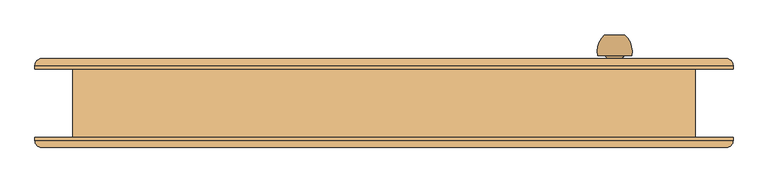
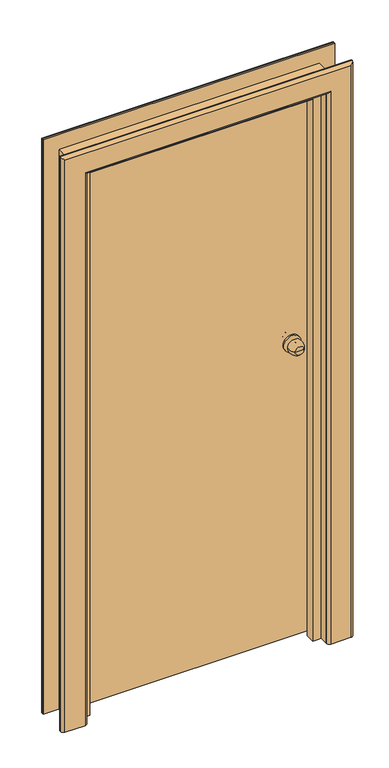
"""IFC4 building model written with IfcOpenShell, lengths in millimetres: door geometry, Внутренняя дверь 1-Навесная - 6629-88 : ДГ 21-9Л  ГОСТ 6629-88."""

import ifcopenshell
import ifcopenshell.guid

model = None  # the IFC model being written
_history = None  # IfcOwnerHistory: only IFC2X3 demands one
_inside = {}  # id of a spatial element -> (the spatial element, [elements in it])
_under = {}  # id of a project, library or spatial element -> (it, [spatial elements below it])
_declared = {}  # id of a project -> (the project, [libraries it declares])
_typed = {}  # id of a type object -> (the type object, [elements of that type])
_made_of = {}  # id of a material, layer set ... -> (it, [elements and type objects made of it])


def new_model(schema):
    """Start an empty IFC model of exactly this schema.

    Asked for "IFC4X3", IfcOpenShell would pick the latest addendum, in which some entities
    have other attributes; the version numbers below select the first issue.
    IFC2X3 requires an IfcOwnerHistory on every rooted entity: one is made here for all.
    """
    global model, _history
    if schema == "IFC4X3":
        model = ifcopenshell.file(schema_version=(4, 3, 0, 0))
    else:
        model = ifcopenshell.file(schema=schema)
    _inside.clear()
    _under.clear()
    _declared.clear()
    _typed.clear()
    _made_of.clear()
    _history = None
    if model.schema == "IFC2X3":
        org = make("IfcOrganization", Name="unknown")
        user = make(
            "IfcPersonAndOrganization",
            ThePerson=make("IfcPerson", FamilyName="unknown"),
            TheOrganization=org,
        )
        app = make(
            "IfcApplication",
            ApplicationDeveloper=org,
            Version="unknown",
            ApplicationFullName="unknown",
            ApplicationIdentifier="unknown",
        )
        _history = make(
            "IfcOwnerHistory",
            OwningUser=user,
            OwningApplication=app,
            ChangeAction="ADDED",
            CreationDate=0,
        )
    return model


def make(cls, **values):
    """One entity of the class cls with the attributes given. An attribute that is None is left unset."""
    return model.create_entity(
        cls, **{name: value for name, value in values.items() if value is not None}
    )


def rooted(cls, **values):
    """An entity with a GlobalId (a new one), such as an element, a storey or a relation."""
    return make(cls, GlobalId=ifcopenshell.guid.new(), OwnerHistory=_history, **values)


def si_unit(unit_type, name, prefix=None):
    """IfcSIUnit, for example si_unit("LENGTHUNIT", "METRE", prefix="MILLI")."""
    return make("IfcSIUnit", UnitType=unit_type, Prefix=prefix, Name=name)


def assignment(units):
    """IfcUnitAssignment: the units of a project."""
    return None if units is None else make("IfcUnitAssignment", Units=units)


def point(xyz):
    """IfcCartesianPoint."""
    return None if xyz is None else make("IfcCartesianPoint", Coordinates=xyz)


def direction(xyz):
    """IfcDirection."""
    return None if xyz is None else make("IfcDirection", DirectionRatios=xyz)


def frame(location, z_axis=None, x_axis=None):
    """IfcAxis2Placement3D, a coordinate frame: its origin and axes. An axis left out is left unset."""
    return make(
        "IfcAxis2Placement3D",
        Location=point(location),
        Axis=direction(z_axis),
        RefDirection=direction(x_axis),
    )


def origin():
    """The frame at (0, 0, 0) with its axes left unset."""
    return frame((0.0, 0.0, 0.0))


def place(relative_to, where):
    """IfcLocalPlacement: puts the frame where relative to a parent placement (None: the world)."""
    return make(
        "IfcLocalPlacement", PlacementRelTo=relative_to, RelativePlacement=where
    )


def context(
    kind, dimensions, precision=None, world=None, true_north=None, identifier=None
):
    """IfcGeometricRepresentationContext, for example the 3D "Model" context."""
    return make(
        "IfcGeometricRepresentationContext",
        ContextIdentifier=identifier,
        ContextType=kind,
        CoordinateSpaceDimension=dimensions,
        Precision=precision,
        WorldCoordinateSystem=world,
        TrueNorth=true_north,
    )


def project(units=None, contexts=None):
    """IfcProject with its units and contexts."""
    return rooted(
        "IfcProject",
        Name="project",
        RepresentationContexts=contexts,
        UnitsInContext=assignment(units),
    )


def spatial(cls, under=None, at=None, **own):
    """A site, building, storey or space (cls), placed at a placement, below another one or the project."""
    s = rooted(cls, ObjectPlacement=at, **own)
    if under is not None:
        _under.setdefault(under.id(), (under, []))[1].append(s)
    return s


def polyline(points):
    """IfcPolyline through the points."""
    return make("IfcPolyline", Points=[point(p) for p in points])


def circle_curve(where, radius):
    """IfcCircle in the frame where."""
    return make("IfcCircle", Position=where, Radius=radius)


def ellipse_curve(where, semi_axis1, semi_axis2):
    """IfcEllipse in the frame where."""
    return make(
        "IfcEllipse", Position=where, SemiAxis1=semi_axis1, SemiAxis2=semi_axis2
    )


def trimmed(basis, trim1, trim2, sense, master):
    """IfcTrimmedCurve: the piece of a basis curve between two trims."""
    return make(
        "IfcTrimmedCurve",
        BasisCurve=basis,
        Trim1=trim1,
        Trim2=trim2,
        SenseAgreement=sense,
        MasterRepresentation=master,
    )


def outline(outer, holes=None, kind="AREA"):
    """IfcArbitraryClosedProfileDef: a profile drawn as a closed curve; with holes, ...WithVoids."""
    if holes is None:
        return make("IfcArbitraryClosedProfileDef", ProfileType=kind, OuterCurve=outer)
    return make(
        "IfcArbitraryProfileDefWithVoids",
        ProfileType=kind,
        OuterCurve=outer,
        InnerCurves=holes,
    )


def extrude(swept, where, along, depth):
    """IfcExtrudedAreaSolid: the profile swept, set in the frame where, extruded along a direction by depth."""
    return make(
        "IfcExtrudedAreaSolid",
        SweptArea=swept,
        Position=where,
        ExtrudedDirection=direction(along),
        Depth=depth,
    )


def faces_of(points, faces, orient=None, outer=None):
    """IfcFace entities. A face is a list of loops; a loop is a list of indices into points, from 0.

    orient and outer hold one flag for each loop. By default every Orientation is true, the
    first loop of a face is its IfcFaceOuterBound and the others are IfcFaceBound.
    """
    made = []
    for i, loops in enumerate(faces):
        bounds = []
        for j, loop in enumerate(loops):
            is_outer = j == 0 if outer is None else outer[i][j]
            bounds.append(
                make(
                    "IfcFaceOuterBound" if is_outer else "IfcFaceBound",
                    Bound=make("IfcPolyLoop", Polygon=[points[k] for k in loop]),
                    Orientation=True if orient is None else orient[i][j],
                )
            )
        made.append(make("IfcFace", Bounds=bounds))
    return made


def faceted_brep(points, faces, orient=None, outer=None, voids=None):
    """IfcFacetedBrep: a solid bounded by flat faces; with voids (closed shells), ...WithVoids."""
    shared = [point(p) for p in points]
    hull = make("IfcClosedShell", CfsFaces=faces_of(shared, faces, orient, outer))
    if voids is None:
        return make("IfcFacetedBrep", Outer=hull)
    return make(
        "IfcFacetedBrepWithVoids",
        Outer=hull,
        Voids=[
            make(cls, CfsFaces=faces_of(shared, fs, o, b)) for cls, fs, o, b in voids
        ],
    )


def shape(context_of_items, identifier, shape_type, items):
    """IfcShapeRepresentation: the items that make up one representation, for example the "Body"."""
    return make(
        "IfcShapeRepresentation",
        ContextOfItems=context_of_items,
        RepresentationIdentifier=identifier,
        RepresentationType=shape_type,
        Items=items,
    )


def source(mapping_origin, context_of_items, identifier, shape_type, items):
    """IfcRepresentationMap: a shape defined once, which mapped items show again and again."""
    return make(
        "IfcRepresentationMap",
        MappingOrigin=mapping_origin,
        MappedRepresentation=shape(context_of_items, identifier, shape_type, items),
    )


def transform(
    local_origin,
    x_axis=None,
    y_axis=None,
    z_axis=None,
    scale=None,
    scale2=None,
    scale3=None,
    uniform=True,
):
    """IfcCartesianTransformationOperator3D, or its non-uniform kind. x_axis, y_axis, z_axis: its Axis1, 2, 3."""
    if uniform:
        return make(
            "IfcCartesianTransformationOperator3D",
            Axis1=direction(x_axis),
            Axis2=direction(y_axis),
            LocalOrigin=point(local_origin),
            Scale=scale,
            Axis3=direction(z_axis),
        )
    return make(
        "IfcCartesianTransformationOperator3DnonUniform",
        Axis1=direction(x_axis),
        Axis2=direction(y_axis),
        LocalOrigin=point(local_origin),
        Scale=scale,
        Axis3=direction(z_axis),
        Scale2=scale2,
        Scale3=scale3,
    )


def mapped(mapping_source, mapping_target):
    """IfcMappedItem: shows the shape of a source again, moved by a transform."""
    return make(
        "IfcMappedItem", MappingSource=mapping_source, MappingTarget=mapping_target
    )


def made_of(thing, what):
    """Note that an element or type object is made of a material, layer set ...; save() writes the relation."""
    if what is not None:
        _made_of.setdefault(what.id(), (what, []))[1].append(thing)
    return thing


def element(
    cls,
    number,
    at=None,
    inside=None,
    cuts=None,
    type_object=None,
    material=None,
    context=None,
    identifier="Body",
    shape_type=None,
    held_by="IfcProductDefinitionShape",
    body=None,
    shapes=None,
    **own,
):
    """One element of the class cls, such as IfcWall. Its Tag is "e" and its number.

    at: its placement. inside: the storey or other place that contains it. cuts: it is an
    opening in that element (IfcRelVoidsElement). A single representation is given by context,
    identifier, shape_type and body (its items); several are given by shapes. held_by: the class
    of the entity that holds the representations. save() writes the other relations.
    """
    e = rooted(cls, Tag="e%d" % number, ObjectPlacement=at, **own)
    if body is not None:
        shapes = [shape(context, identifier, shape_type, body)]
    if shapes is not None:
        e.Representation = make(held_by, Representations=shapes)
    if inside is not None:
        _inside.setdefault(inside.id(), (inside, []))[1].append(e)
    if cuts is not None:
        rooted(
            "IfcRelVoidsElement", RelatingBuildingElement=cuts, RelatedOpeningElement=e
        )
    if type_object is not None:
        _typed.setdefault(type_object.id(), (type_object, []))[1].append(e)
    return made_of(e, material)


def aggregate(whole, parts):
    """IfcRelAggregates: a whole, such as a stair, and the parts it consists of."""
    return rooted("IfcRelAggregates", RelatingObject=whole, RelatedObjects=parts)


def save(model, path):
    """Write the relations noted so far, then the file.

    IfcRelAggregates (storeys below a building ...), IfcRelContainedInSpatialStructure (elements
    in a storey), IfcRelDefinesByType, IfcRelAssociatesMaterial and IfcRelDeclares: one each for
    every whole, place, type object, material and project.
    """
    for whole, parts in _under.values():
        aggregate(whole, parts)
    for where, things in _inside.values():
        rooted(
            "IfcRelContainedInSpatialStructure",
            RelatedElements=things,
            RelatingStructure=where,
        )
    for kind, things in _typed.values():
        rooted("IfcRelDefinesByType", RelatedObjects=things, RelatingType=kind)
    for what, things in _made_of.values():
        rooted("IfcRelAssociatesMaterial", RelatedObjects=things, RelatingMaterial=what)
    for by, libraries in _declared.values():
        rooted("IfcRelDeclares", RelatingContext=by, RelatedDefinitions=libraries)
    model.write(path)


def plane_surface(at):
    """IfcPlane: the flat surface through the origin of the frame at, square to its z axis."""
    return make("IfcPlane", Position=at)


def cylinder_surface(at, radius):
    """IfcCylindricalSurface: all points at the distance radius from the z axis of the frame at."""
    return make("IfcCylindricalSurface", Position=at, Radius=radius)


def revolved_surface(curve, axis_point, axis_direction):
    """IfcSurfaceOfRevolution: the curve turned about the line through axis_point along axis_direction."""
    return make(
        "IfcSurfaceOfRevolution",
        SweptCurve=make("IfcArbitraryOpenProfileDef", ProfileType="CURVE", Curve=curve),
        AxisPosition=make("IfcAxis1Placement", Location=point(axis_point), Axis=direction(axis_direction)),
    )


def advanced_brep(points, edges, surfaces, faces):
    """IfcAdvancedBrep: a solid bounded by faces that lie on surfaces and meet in shared edges.

    An edge is (start, end): straight between two places in points (the first is 0);
    or (start, end, curve); or (start, end, curve, False) where it runs against its curve.
    A face is (place in surfaces, loops), or (place, loops, False) where it looks against
    its surface's normal. A loop lists edges by number (the first is 1), with a minus sign
    where the edge is run from its end to its start. The first loop is the outer one.
    """
    corners = [point(p) for p in points]
    vertices = [make("IfcVertexPoint", VertexGeometry=c) for c in corners]
    made = []
    for start, end, *more in edges:
        made.append(
            make(
                "IfcEdgeCurve",
                EdgeStart=vertices[start],
                EdgeEnd=vertices[end],
                EdgeGeometry=more[0] if more else make("IfcPolyline", Points=[corners[start], corners[end]]),
                SameSense=more[1] if len(more) > 1 else True,
            )
        )
    hull = []
    for where, loops, *sense in faces:
        bounds = []
        for j, loop in enumerate(loops):
            ring = [make("IfcOrientedEdge", EdgeElement=made[abs(k) - 1], Orientation=k > 0) for k in loop]
            bounds.append(
                make(
                    "IfcFaceOuterBound" if j == 0 else "IfcFaceBound",
                    Bound=make("IfcEdgeLoop", EdgeList=ring),
                    Orientation=True,
                )
            )
        hull.append(make("IfcAdvancedFace", Bounds=bounds, FaceSurface=surfaces[where], SameSense=sense[0] if sense else True))
    return make("IfcAdvancedBrep", Outer=make("IfcClosedShell", CfsFaces=hull))


def door_8e506e8c(model_context):
    return source(origin(), model_context, "Body", "SolidModel", [
        advanced_brep(
        [(352.0, 100.0, 1100.0), (337.0, 100.0, 1100.0), (322.0, 100.0, 1100.0), (312.0, 70.0, 1100.0), (362.0, 70.0, 1100.0), (319.0, 70.0, 1100.0), (355.0, 70.0, 1100.0), (327.0, 62.0, 1100.0), (347.0, 62.0, 1100.0), (327.0, 56.0, 1100.0), (347.0, 56.0, 1100.0), (307.0, 56.0, 1100.0), (367.0, 56.0, 1100.0), (307.0, 50.0, 1100.0), (367.0, 50.0, 1100.0)],
        [
            (0, 1),
            (1, 2),
            (2, 0, circle_curve(frame((337.0, 100.0, 1100.0), z_axis=(0.0, 1.0, 0.0), x_axis=(-1.0, 0.0, 0.0)), 15.0)),
            (0, 2, circle_curve(frame((337.0, 100.0, 1100.0), z_axis=(0.0, 1.0, 0.0), x_axis=(-1.0, 0.0, 0.0)), 15.0)),
            (2, 3, circle_curve(frame((346.6226265, 75.1257912, 1100.0), z_axis=(0.0, 0.0, 1.0), x_axis=(1.0, 0.0, 0.0)), 35.0)),
            (3, 4, circle_curve(frame((337.0, 70.0, 1100.0), z_axis=(0.0, 1.0, 0.0), x_axis=(-1.0, 0.0, 0.0)), 25.0)),
            (4, 0, circle_curve(frame((327.3773735, 75.1257912, 1100.0), z_axis=(0.0, 0.0, 1.0), x_axis=(-1.0, 0.0, 0.0)), 35.0)),
            (4, 3, circle_curve(frame((337.0, 70.0, 1100.0), z_axis=(0.0, 1.0, 0.0), x_axis=(-1.0, 0.0, 0.0)), 25.0)),
            (3, 5),
            (5, 6, circle_curve(frame((337.0, 70.0, 1100.0), z_axis=(0.0, 1.0, 0.0), x_axis=(-1.0, 0.0, 0.0)), 18.0)),
            (6, 4),
            (6, 5, circle_curve(frame((337.0, 70.0, 1100.0), z_axis=(0.0, 1.0, 0.0), x_axis=(-1.0, 0.0, 0.0)), 18.0)),
            (5, 7, circle_curve(frame((319.0, 62.0, 1100.0), z_axis=(0.0, 0.0, -1.0), x_axis=(1.0, 0.0, 0.0)), 8.0)),
            (7, 8, circle_curve(frame((337.0, 62.0, 1100.0), z_axis=(0.0, 1.0, 0.0), x_axis=(-1.0, 0.0, 0.0)), 10.0)),
            (8, 6, circle_curve(frame((355.0, 62.0, 1100.0), z_axis=(0.0, 0.0, -1.0), x_axis=(-1.0, 0.0, 0.0)), 8.0)),
            (8, 7, circle_curve(frame((337.0, 62.0, 1100.0), z_axis=(0.0, 1.0, 0.0), x_axis=(-1.0, 0.0, 0.0)), 10.0)),
            (7, 9),
            (9, 10, circle_curve(frame((337.0, 56.0, 1100.0), z_axis=(0.0, 1.0, 0.0), x_axis=(-1.0, 0.0, 0.0)), 10.0)),
            (10, 8),
            (10, 9, circle_curve(frame((337.0, 56.0, 1100.0), z_axis=(0.0, 1.0, 0.0), x_axis=(-1.0, 0.0, 0.0)), 10.0)),
            (11, 12, circle_curve(frame((337.0, 56.0, 1100.0), z_axis=(0.0, 1.0, 0.0), x_axis=(1.0, 0.0, 0.0)), 30.0)),
            (12, 11, circle_curve(frame((337.0, 56.0, 1100.0), z_axis=(0.0, 1.0, 0.0), x_axis=(1.0, 0.0, 0.0)), 30.0)),
            (13, 14, circle_curve(frame((337.0, 50.0, 1100.0), z_axis=(0.0, -1.0, 0.0), x_axis=(1.0, 0.0, 0.0)), 30.0)),
            (14, 13, circle_curve(frame((337.0, 50.0, 1100.0), z_axis=(0.0, -1.0, 0.0), x_axis=(1.0, 0.0, 0.0)), 30.0)),
            (12, 14),
            (13, 11),
        ],
        [
            plane_surface(frame((337.0, 100.0, 1100.0), z_axis=(0.0, 1.0, 0.0), x_axis=(-1.0, 0.0, 0.0))),
            revolved_surface(trimmed(ellipse_curve(frame((346.6226265, 75.1257912, 1100.0), z_axis=(0.0, 0.0, 1.0), x_axis=(1.0, 0.0, 0.0)), 35.0, 35.0), [point((322.0, 100.0, 1100.0))], [point((312.0, 70.0, 1100.0))], True, "CARTESIAN"), (337.0, 130.0, 1100.0), (0.0, -1.0, 0.0)),
            plane_surface(frame((337.0, 70.0, 1100.0), z_axis=(0.0, -1.0, 0.0), x_axis=(-1.0, 0.0, 0.0))),
            revolved_surface(trimmed(ellipse_curve(frame((319.0, 62.0, 1100.0), z_axis=(0.0, 0.0, -1.0), x_axis=(1.0, 0.0, 0.0)), 8.0, 8.0), [point((319.0, 70.0, 1100.0))], [point((327.0, 62.0, 1100.0))], True, "CARTESIAN"), (337.0, 130.0, 1100.0), (0.0, -1.0, 0.0)),
            cylinder_surface(frame((337.0, 130.0, 1100.0), z_axis=(0.0, -1.0, 0.0), x_axis=(-1.0, 0.0, 0.0)), 10.0),
            plane_surface(frame((367.0, 56.0, 1100.0), z_axis=(0.0, 1.0, 0.0), x_axis=(0.0, 0.0, 1.0))),
            plane_surface(frame((367.0, 50.0, 1100.0), z_axis=(0.0, -1.0, 0.0), x_axis=(0.0, 0.0, -1.0))),
            cylinder_surface(frame((337.0, 50.0, 1100.0), z_axis=(0.0, 1.0, 0.0), x_axis=(1.0, 0.0, 0.0)), 30.0),
        ],
        [
            (0, [[1, 2, 3]]),
            (0, [[-1, 4, -2]]),
            (1, [[5, 6, 7, -3]]),
            (1, [[-7, 8, -5, -4]]),
            (2, [[9, 10, 11, -6]]),
            (2, [[-11, 12, -9, -8]]),
            (3, [[13, 14, 15, -10]]),
            (3, [[-15, 16, -13, -12]]),
            (4, [[17, 18, 19, -14]]),
            (4, [[-19, 20, -17, -16]]),
            (5, [[21, 22], [-20, -18]]),
            (6, [[23, 24]]),
            (7, [[25, -23, 26, -22]]),
            (7, [[-26, -24, -25, -21]]),
        ],
    ),
        advanced_brep(
        [(322.0, -37.0, 1100.0), (337.0, -37.0, 1100.0), (352.0, -37.0, 1100.0), (362.0, -7.0, 1100.0), (312.0, -7.0, 1100.0), (355.0, -7.0, 1100.0), (319.0, -7.0, 1100.0), (347.0, 1.0, 1100.0), (327.0, 1.0, 1100.0), (347.0, 7.0, 1100.0), (327.0, 7.0, 1100.0), (367.0, 7.0, 1100.0), (307.0, 7.0, 1100.0), (367.0, 13.0, 1100.0), (307.0, 13.0, 1100.0)],
        [
            (0, 1),
            (1, 2),
            (2, 0, circle_curve(frame((337.0, -37.0, 1100.0), z_axis=(0.0, -1.0, 0.0), x_axis=(1.0, 0.0, 0.0)), 15.0)),
            (0, 2, circle_curve(frame((337.0, -37.0, 1100.0), z_axis=(0.0, -1.0, 0.0), x_axis=(1.0, 0.0, 0.0)), 15.0)),
            (2, 3, circle_curve(frame((327.3773735, -12.1257912, 1100.0), z_axis=(0.0, 0.0, 1.0), x_axis=(-1.0, 0.0, 0.0)), 35.0)),
            (3, 4, circle_curve(frame((337.0, -7.0, 1100.0), z_axis=(0.0, -1.0, 0.0), x_axis=(1.0, 0.0, 0.0)), 25.0)),
            (4, 0, circle_curve(frame((346.6226265, -12.1257912, 1100.0), z_axis=(0.0, 0.0, 1.0), x_axis=(1.0, 0.0, 0.0)), 35.0)),
            (4, 3, circle_curve(frame((337.0, -7.0, 1100.0), z_axis=(0.0, -1.0, 0.0), x_axis=(1.0, 0.0, 0.0)), 25.0)),
            (3, 5),
            (5, 6, circle_curve(frame((337.0, -7.0, 1100.0), z_axis=(0.0, -1.0, 0.0), x_axis=(1.0, 0.0, 0.0)), 18.0)),
            (6, 4),
            (6, 5, circle_curve(frame((337.0, -7.0, 1100.0), z_axis=(0.0, -1.0, 0.0), x_axis=(1.0, 0.0, 0.0)), 18.0)),
            (5, 7, circle_curve(frame((355.0, 1.0, 1100.0), z_axis=(0.0, 0.0, -1.0), x_axis=(-1.0, 0.0, 0.0)), 8.0)),
            (7, 8, circle_curve(frame((337.0, 1.0, 1100.0), z_axis=(0.0, -1.0, 0.0), x_axis=(1.0, 0.0, 0.0)), 10.0)),
            (8, 6, circle_curve(frame((319.0, 1.0, 1100.0), z_axis=(0.0, 0.0, -1.0), x_axis=(1.0, 0.0, 0.0)), 8.0)),
            (8, 7, circle_curve(frame((337.0, 1.0, 1100.0), z_axis=(0.0, -1.0, 0.0), x_axis=(1.0, 0.0, 0.0)), 10.0)),
            (7, 9),
            (9, 10, circle_curve(frame((337.0, 7.0, 1100.0), z_axis=(0.0, -1.0, 0.0), x_axis=(1.0, 0.0, 0.0)), 10.0)),
            (10, 8),
            (10, 9, circle_curve(frame((337.0, 7.0, 1100.0), z_axis=(0.0, -1.0, 0.0), x_axis=(1.0, 0.0, 0.0)), 10.0)),
            (11, 12, circle_curve(frame((337.0, 7.0, 1100.0), z_axis=(0.0, -1.0, 0.0), x_axis=(-1.0, 0.0, 0.0)), 30.0)),
            (12, 11, circle_curve(frame((337.0, 7.0, 1100.0), z_axis=(0.0, -1.0, 0.0), x_axis=(-1.0, 0.0, 0.0)), 30.0)),
            (13, 14, circle_curve(frame((337.0, 13.0, 1100.0), z_axis=(0.0, 1.0, 0.0), x_axis=(-1.0, 0.0, 0.0)), 30.0)),
            (14, 13, circle_curve(frame((337.0, 13.0, 1100.0), z_axis=(0.0, 1.0, 0.0), x_axis=(-1.0, 0.0, 0.0)), 30.0)),
            (12, 14),
            (13, 11),
        ],
        [
            plane_surface(frame((337.0, -37.0, 1100.0), z_axis=(0.0, -1.0, 0.0), x_axis=(1.0, 0.0, 0.0))),
            revolved_surface(trimmed(ellipse_curve(frame((327.3773735, -12.1257912, 1100.0), z_axis=(0.0, 0.0, 1.0), x_axis=(-1.0, 0.0, 0.0)), 35.0, 35.0), [point((352.0, -37.0, 1100.0))], [point((362.0, -7.0, 1100.0))], True, "CARTESIAN"), (337.0, -67.0, 1100.0), (0.0, 1.0, 0.0)),
            plane_surface(frame((337.0, -7.0, 1100.0), z_axis=(0.0, 1.0, 0.0), x_axis=(1.0, 0.0, 0.0))),
            revolved_surface(trimmed(ellipse_curve(frame((355.0, 1.0, 1100.0), z_axis=(0.0, 0.0, -1.0), x_axis=(-1.0, 0.0, 0.0)), 8.0, 8.0), [point((355.0, -7.0, 1100.0))], [point((347.0, 1.0, 1100.0))], True, "CARTESIAN"), (337.0, -67.0, 1100.0), (0.0, 1.0, 0.0)),
            cylinder_surface(frame((337.0, -67.0, 1100.0), z_axis=(0.0, 1.0, 0.0), x_axis=(1.0, 0.0, 0.0)), 10.0),
            plane_surface(frame((307.0, 7.0, 1100.0), z_axis=(0.0, -1.0, 0.0), x_axis=(0.0, 0.0, 1.0))),
            plane_surface(frame((307.0, 13.0, 1100.0), z_axis=(0.0, 1.0, 0.0), x_axis=(0.0, 0.0, -1.0))),
            cylinder_surface(frame((337.0, 13.0, 1100.0), z_axis=(0.0, -1.0, 0.0), x_axis=(-1.0, 0.0, 0.0)), 30.0),
        ],
        [
            (0, [[1, 2, 3]]),
            (0, [[-1, 4, -2]]),
            (1, [[5, 6, 7, -3]]),
            (1, [[-7, 8, -5, -4]]),
            (2, [[9, 10, 11, -6]]),
            (2, [[-11, 12, -9, -8]]),
            (3, [[13, 14, 15, -10]]),
            (3, [[-15, 16, -13, -12]]),
            (4, [[17, 18, 19, -14]]),
            (4, [[-19, 20, -17, -16]]),
            (5, [[21, 22], [-20, -18]]),
            (6, [[23, 24]]),
            (7, [[25, -23, 26, -22]]),
            (7, [[-26, -24, -25, -21]]),
        ],
    ),
        extrude(outline(polyline([(0.0, 435.0), (2050.0, 435.0), (2050.0, -435.0), (0.0, -435.0), (0.0, -420.0), (2035.0, -420.0), (2035.0, 420.0), (0.0, 420.0), (0.0, 435.0)])), frame((0.0, -50.0, 0.0), z_axis=(0.0, 1.0, 0.0), x_axis=(0.0, 0.0, 1.0)), (0.0, 0.0, 1.0), 26.0),
        advanced_brep(
        [(-510.0, 50.0, 0.0), (-510.0, 55.0, 0.0), (-500.0, 65.0, 0.0), (-430.0, 65.0, 0.0), (-420.0, 55.0, 0.0), (-420.0, 50.0, 0.0), (-420.0, 50.0, 2035.0), (420.0, 50.0, 2035.0), (420.0, 50.0, 0.0), (510.0, 50.0, 0.0), (510.0, 50.0, 2125.0), (-510.0, 50.0, 2125.0), (-420.0, 55.0, 2035.0), (-430.0, 65.0, 2045.0), (-500.0, 65.0, 2115.0), (500.0, 65.0, 2115.0), (500.0, 65.0, 0.0), (430.0, 65.0, 0.0), (430.0, 65.0, 2045.0), (-510.0, 55.0, 2125.0), (510.0, 55.0, 0.0), (510.0, 55.0, 2125.0), (420.0, 55.0, 0.0), (420.0, 55.0, 2035.0)],
        [
            (0, 1),
            (1, 2, circle_curve(frame((-500.0, 55.0, 0.0), z_axis=(0.0, 0.0, -1.0), x_axis=(-1.0, 0.0, 0.0)), 10.0)),
            (2, 3),
            (3, 4, circle_curve(frame((-430.0, 55.0, 0.0), z_axis=(0.0, 0.0, -1.0), x_axis=(-1.0, 0.0, 0.0)), 10.0)),
            (4, 5),
            (5, 0),
            (5, 6),
            (6, 7),
            (7, 8),
            (8, 9),
            (9, 10),
            (10, 11),
            (11, 0),
            (4, 12),
            (12, 6),
            (3, 13),
            (13, 12, ellipse_curve(frame((-430.0, 55.0, 2045.0), z_axis=(-0.7071067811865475, 0.0, -0.7071067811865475), x_axis=(0.7071067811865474, 0.0, -0.7071067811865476)), 14.1421356, 10.0)),
            (2, 14),
            (14, 15),
            (15, 16),
            (16, 17),
            (17, 18),
            (18, 13),
            (1, 19),
            (19, 14, ellipse_curve(frame((-500.0, 55.0, 2115.0), z_axis=(-0.7071067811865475, 0.0, -0.7071067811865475), x_axis=(0.7071067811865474, 0.0, -0.7071067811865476)), 14.1421356, 10.0)),
            (11, 19),
            (9, 20),
            (20, 21),
            (21, 10),
            (8, 22),
            (22, 17, circle_curve(frame((430.0, 55.0, 0.0), z_axis=(0.0, 0.0, -1.0), x_axis=(1.0, 0.0, 0.0)), 10.0)),
            (16, 20, circle_curve(frame((500.0, 55.0, 0.0), z_axis=(0.0, 0.0, -1.0), x_axis=(1.0, 0.0, 0.0)), 10.0)),
            (23, 22),
            (7, 23),
            (23, 18, ellipse_curve(frame((430.0, 55.0, 2045.0), z_axis=(0.7071067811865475, 0.0, -0.7071067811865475), x_axis=(0.7071067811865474, 0.0, 0.7071067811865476)), 14.1421356, 10.0)),
            (15, 21, ellipse_curve(frame((500.0, 55.0, 2115.0), z_axis=(0.7071067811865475, 0.0, -0.7071067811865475), x_axis=(0.7071067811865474, 0.0, 0.7071067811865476)), 14.1421356, 10.0)),
            (12, 23),
            (19, 21),
        ],
        [
            plane_surface(frame((-455.0, 50.0, 0.0), z_axis=(0.0, 0.0, -1.0), x_axis=(0.0, -1.0, 0.0))),
            plane_surface(frame((-510.0, 50.0, 0.0), z_axis=(0.0, -1.0, 0.0), x_axis=(0.0, 0.0, 1.0))),
            plane_surface(frame((-420.0, 50.0, 0.0), z_axis=(1.0, 0.0, 0.0), x_axis=(0.0, 0.0, 1.0))),
            cylinder_surface(frame((-430.0, 55.0, 0.0), z_axis=(0.0, 0.0, -1.0), x_axis=(-1.0, 0.0, 0.0)), 10.0),
            plane_surface(frame((-430.0, 65.0, 0.0), z_axis=(0.0, 1.0, 0.0), x_axis=(0.0, 0.0, 1.0))),
            cylinder_surface(frame((-500.0, 55.0, 0.0), z_axis=(0.0, 0.0, -1.0), x_axis=(-1.0, 0.0, 0.0)), 10.0),
            plane_surface(frame((-510.0, 55.0, 0.0), z_axis=(-1.0, 0.0, 0.0), x_axis=(0.0, 0.0, 1.0))),
            plane_surface(frame((510.0, 55.0, 2125.0), z_axis=(1.0, 0.0, 0.0), x_axis=(0.0, 0.0, -1.0))),
            plane_surface(frame((455.0, 50.0, 0.0), z_axis=(0.0, 0.0, -1.0), x_axis=(0.0, -1.0, 0.0))),
            plane_surface(frame((420.0, 50.0, 2035.0), z_axis=(-1.0, 0.0, 0.0), x_axis=(0.0, 0.0, -1.0))),
            cylinder_surface(frame((430.0, 55.0, 2070.0), z_axis=(0.0, 0.0, 1.0), x_axis=(1.0, 0.0, 0.0)), 10.0),
            cylinder_surface(frame((500.0, 55.0, 2070.0), z_axis=(0.0, 0.0, 1.0), x_axis=(1.0, 0.0, 0.0)), 10.0),
            plane_surface(frame((-420.0, 50.0, 2035.0), z_axis=(0.0, 0.0, -1.0), x_axis=(1.0, 0.0, 0.0))),
            cylinder_surface(frame((-455.0, 55.0, 2045.0), z_axis=(-1.0, 0.0, 0.0), x_axis=(0.0, 0.0, 1.0)), 10.0),
            cylinder_surface(frame((-455.0, 55.0, 2115.0), z_axis=(-1.0, 0.0, 0.0), x_axis=(0.0, 0.0, 1.0)), 10.0),
            plane_surface(frame((-510.0, 55.0, 2125.0), z_axis=(0.0, 0.0, 1.0), x_axis=(1.0, 0.0, 0.0))),
        ],
        [
            (0, [[1, 2, 3, 4, 5, 6]]),
            (1, [[7, 8, 9, 10, 11, 12, 13, -6]]),
            (2, [[14, 15, -7, -5]]),
            (3, [[16, 17, -14, -4]]),
            (4, [[18, 19, 20, 21, 22, 23, -16, -3]]),
            (5, [[24, 25, -18, -2]]),
            (6, [[-13, 26, -24, -1]]),
            (7, [[-11, 27, 28, 29]]),
            (8, [[-10, 30, 31, -21, 32, -27]]),
            (9, [[33, -30, -9, 34]]),
            (10, [[-22, -31, -33, 35]]),
            (11, [[-28, -32, -20, 36]]),
            (12, [[37, -34, -8, -15]]),
            (13, [[-23, -35, -37, -17]]),
            (14, [[38, -36, -19, -25]]),
            (15, [[-12, -29, -38, -26]]),
        ],
    ),
        advanced_brep(
        [(510.0, -50.0, 0.0), (510.0, -55.0, 0.0), (500.0, -65.0, 0.0), (430.0, -65.0, 0.0), (420.0, -55.0, 0.0), (420.0, -50.0, 0.0), (420.0, -50.0, 2035.0), (-420.0, -50.0, 2035.0), (-420.0, -50.0, 0.0), (-510.0, -50.0, 0.0), (-510.0, -50.0, 2125.0), (510.0, -50.0, 2125.0), (420.0, -55.0, 2035.0), (430.0, -65.0, 2045.0), (500.0, -65.0, 2115.0), (-500.0, -65.0, 2115.0), (-500.0, -65.0, 0.0), (-430.0, -65.0, 0.0), (-430.0, -65.0, 2045.0), (510.0, -55.0, 2125.0), (-510.0, -55.0, 0.0), (-510.0, -55.0, 2125.0), (-420.0, -55.0, 0.0), (-420.0, -55.0, 2035.0)],
        [
            (0, 1),
            (1, 2, circle_curve(frame((500.0, -55.0, 0.0), z_axis=(0.0, 0.0, -1.0), x_axis=(1.0, 0.0, 0.0)), 10.0)),
            (2, 3),
            (3, 4, circle_curve(frame((430.0, -55.0, 0.0), z_axis=(0.0, 0.0, -1.0), x_axis=(1.0, 0.0, 0.0)), 10.0)),
            (4, 5),
            (5, 0),
            (5, 6),
            (6, 7),
            (7, 8),
            (8, 9),
            (9, 10),
            (10, 11),
            (11, 0),
            (4, 12),
            (12, 6),
            (3, 13),
            (13, 12, ellipse_curve(frame((430.0, -55.0, 2045.0), z_axis=(0.7071067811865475, 0.0, -0.7071067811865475), x_axis=(-0.7071067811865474, 0.0, -0.7071067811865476)), 14.1421356, 10.0)),
            (2, 14),
            (14, 15),
            (15, 16),
            (16, 17),
            (17, 18),
            (18, 13),
            (1, 19),
            (19, 14, ellipse_curve(frame((500.0, -55.0, 2115.0), z_axis=(0.7071067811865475, 0.0, -0.7071067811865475), x_axis=(-0.7071067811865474, 0.0, -0.7071067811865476)), 14.1421356, 10.0)),
            (11, 19),
            (9, 20),
            (20, 21),
            (21, 10),
            (8, 22),
            (22, 17, circle_curve(frame((-430.0, -55.0, 0.0), z_axis=(0.0, 0.0, -1.0), x_axis=(-1.0, 0.0, 0.0)), 10.0)),
            (16, 20, circle_curve(frame((-500.0, -55.0, 0.0), z_axis=(0.0, 0.0, -1.0), x_axis=(-1.0, 0.0, 0.0)), 10.0)),
            (23, 22),
            (7, 23),
            (23, 18, ellipse_curve(frame((-430.0, -55.0, 2045.0), z_axis=(-0.7071067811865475, 0.0, -0.7071067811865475), x_axis=(-0.7071067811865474, 0.0, 0.7071067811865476)), 14.1421356, 10.0)),
            (15, 21, ellipse_curve(frame((-500.0, -55.0, 2115.0), z_axis=(-0.7071067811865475, 0.0, -0.7071067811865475), x_axis=(-0.7071067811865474, 0.0, 0.7071067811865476)), 14.1421356, 10.0)),
            (12, 23),
            (19, 21),
        ],
        [
            plane_surface(frame((455.0, -50.0, 0.0), z_axis=(0.0, 0.0, -1.0), x_axis=(0.0, 1.0, 0.0))),
            plane_surface(frame((510.0, -50.0, 0.0), z_axis=(0.0, 1.0, 0.0), x_axis=(0.0, 0.0, 1.0))),
            plane_surface(frame((420.0, -50.0, 0.0), z_axis=(-1.0, 0.0, 0.0), x_axis=(0.0, 0.0, 1.0))),
            cylinder_surface(frame((430.0, -55.0, 0.0), z_axis=(0.0, 0.0, -1.0), x_axis=(1.0, 0.0, 0.0)), 10.0),
            plane_surface(frame((430.0, -65.0, 0.0), z_axis=(0.0, -1.0, 0.0), x_axis=(0.0, 0.0, 1.0))),
            cylinder_surface(frame((500.0, -55.0, 0.0), z_axis=(0.0, 0.0, -1.0), x_axis=(1.0, 0.0, 0.0)), 10.0),
            plane_surface(frame((510.0, -55.0, 0.0), z_axis=(1.0, 0.0, 0.0), x_axis=(0.0, 0.0, 1.0))),
            plane_surface(frame((-510.0, -55.0, 2125.0), z_axis=(-1.0, 0.0, 0.0), x_axis=(0.0, 0.0, -1.0))),
            plane_surface(frame((-455.0, -50.0, 0.0), z_axis=(0.0, 0.0, -1.0), x_axis=(0.0, 1.0, 0.0))),
            plane_surface(frame((-420.0, -50.0, 2035.0), z_axis=(1.0, 0.0, 0.0), x_axis=(0.0, 0.0, -1.0))),
            cylinder_surface(frame((-430.0, -55.0, 2070.0), z_axis=(0.0, 0.0, 1.0), x_axis=(-1.0, 0.0, 0.0)), 10.0),
            cylinder_surface(frame((-500.0, -55.0, 2070.0), z_axis=(0.0, 0.0, 1.0), x_axis=(-1.0, 0.0, 0.0)), 10.0),
            plane_surface(frame((420.0, -50.0, 2035.0), z_axis=(0.0, 0.0, -1.0), x_axis=(-1.0, 0.0, 0.0))),
            cylinder_surface(frame((455.0, -55.0, 2045.0), z_axis=(1.0, 0.0, 0.0), x_axis=(0.0, 0.0, 1.0)), 10.0),
            cylinder_surface(frame((455.0, -55.0, 2115.0), z_axis=(1.0, 0.0, 0.0), x_axis=(0.0, 0.0, 1.0)), 10.0),
            plane_surface(frame((510.0, -55.0, 2125.0), z_axis=(0.0, 0.0, 1.0), x_axis=(-1.0, 0.0, 0.0))),
        ],
        [
            (0, [[1, 2, 3, 4, 5, 6]]),
            (1, [[7, 8, 9, 10, 11, 12, 13, -6]]),
            (2, [[14, 15, -7, -5]]),
            (3, [[16, 17, -14, -4]]),
            (4, [[18, 19, 20, 21, 22, 23, -16, -3]]),
            (5, [[24, 25, -18, -2]]),
            (6, [[-13, 26, -24, -1]]),
            (7, [[-11, 27, 28, 29]]),
            (8, [[-10, 30, 31, -21, 32, -27]]),
            (9, [[33, -30, -9, 34]]),
            (10, [[-22, -31, -33, 35]]),
            (11, [[-28, -32, -20, 36]]),
            (12, [[37, -34, -8, -15]]),
            (13, [[-23, -35, -37, -17]]),
            (14, [[38, -36, -19, -25]]),
            (15, [[-12, -29, -38, -26]]),
        ],
    ),
        faceted_brep([(390.0, -24.0, 0.0), (390.0, 8.0, 0.0), (402.0, 8.0, 0.0), (402.0, 50.0, 0.0), (435.0, 50.0, 0.0), (435.0, -24.0, 0.0), (435.0, -24.0, 2050.0), (-435.0, -24.0, 2050.0), (-435.0, -24.0, 0.0), (-390.0, -24.0, 0.0), (-390.0, -24.0, 2005.0), (390.0, -24.0, 2005.0), (435.0, 50.0, 2050.0), (402.0, 50.0, 2017.0), (-402.0, 50.0, 2017.0), (-402.0, 50.0, 0.0), (-435.0, 50.0, 0.0), (-435.0, 50.0, 2050.0), (402.0, 8.0, 2017.0), (390.0, 8.0, 2005.0), (-390.0, 8.0, 2005.0), (-390.0, 8.0, 0.0), (-402.0, 8.0, 0.0), (-402.0, 8.0, 2017.0)], [[[0, 1, 2, 3, 4, 5]], [[5, 6, 7, 8, 9, 10, 11, 0]], [[4, 12, 6, 5]], [[3, 13, 14, 15, 16, 17, 12, 4]], [[2, 18, 13, 3]], [[1, 19, 20, 21, 22, 23, 18, 2]], [[0, 11, 19, 1]], [[10, 9, 21, 20]], [[9, 8, 16, 15, 22, 21]], [[17, 16, 8, 7]], [[23, 22, 15, 14]], [[12, 17, 7, 6]], [[18, 23, 14, 13]], [[11, 10, 20, 19]]]),
        extrude(outline(polyline([(0.0, 455.0), (2070.0, 455.0), (2070.0, -455.0), (0.0, -455.0), (0.0, -435.0), (2050.0, -435.0), (2050.0, 435.0), (0.0, 435.0), (0.0, 455.0)])), frame((0.0, -50.0, 0.0), z_axis=(0.0, 1.0, 0.0), x_axis=(0.0, 0.0, 1.0)), (0.0, 0.0, 1.0), 100.0),
        extrude(outline(polyline([(397.0, 13.0), (-397.0, 13.0), (-397.0, 50.0), (397.0, 50.0), (397.0, 13.0)])), frame((0.0, 0.0, 15.0), z_axis=(0.0, 0.0, 1.0), x_axis=(1.0, 0.0, 0.0)), (0.0, 0.0, 1.0), 1997.0),
    ])


if __name__ == "__main__":
    model = new_model("IFC4")
    model_context = context("Model", 3, world=origin())
    ifc_project = project(units=[si_unit("LENGTHUNIT", "METRE", prefix="MILLI")], contexts=[model_context])
    site = spatial("IfcSite", under=ifc_project)
    building = spatial("IfcBuilding", under=site)
    placement = place(None, origin())
    door_shape = door_8e506e8c(model_context)
    element("IfcDoor", 1, ObjectType="Внутренняя дверь 1-Навесная - 6629-88 : ДГ 21-9Л  ГОСТ 6629-88", at=placement, inside=building, context=model_context, shape_type="MappedRepresentation", body=[
        mapped(door_shape, transform((0.0, 0.0, 0.0), x_axis=(1.0, 0.0, 0.0), y_axis=(0.0, 1.0, 0.0), z_axis=(0.0, 0.0, 1.0))),
    ])
    save(model, "model.ifc")
